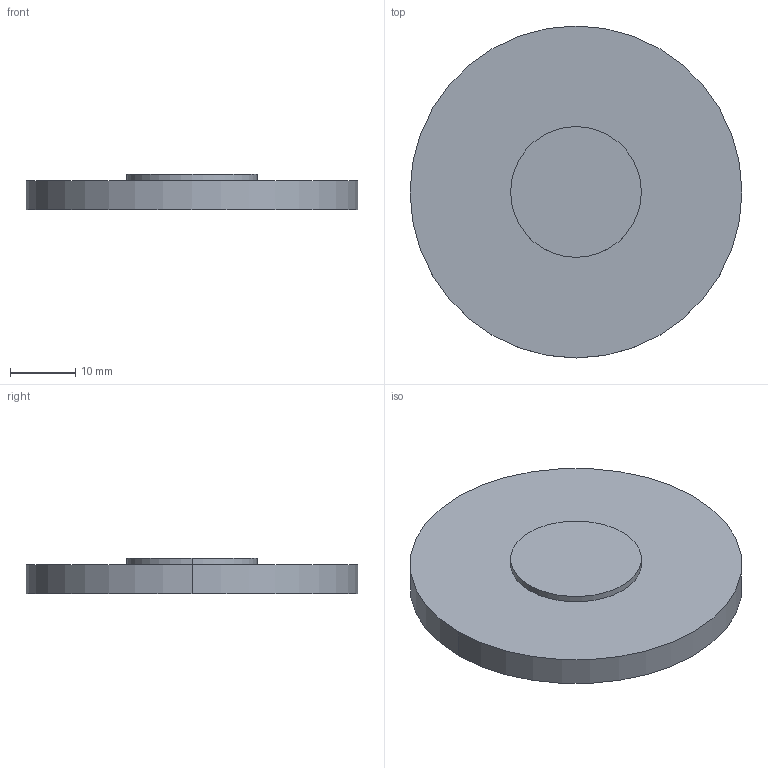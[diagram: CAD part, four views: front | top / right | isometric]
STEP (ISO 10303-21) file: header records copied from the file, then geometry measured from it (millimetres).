
FILE_DESCRIPTION(('STEP AP214'),'1');
FILE_NAME('LL-51-10M.STEP','2020-03-09T17:41:14',(' '),(' '),'Spatial InterOp 3D',' ',' ');
FILE_SCHEMA(('AUTOMOTIVE_DESIGN { 1 0 10303 214 1 1 1 1 }'));
Length unit declared in the file: millimetre
Products named in the file (1): 1
Bounding box: 50.8 x 50.8 x 5.5 mm (x, y, z)
Volume: 9387.2 mm3; surface area: 5455.5 mm2
Topology: 2 solids, 2 shells, 9 faces, 16 edges, 9 vertices
Faces by surface type: cylinder 4, plane 3, sphere 2
Entity records: 229 total; most frequent: DIRECTION 46, CARTESIAN_POINT 34, ORIENTED_EDGE 28, AXIS2_PLACEMENT_3D 21, EDGE_CURVE 14, CIRCLE 10, ADVANCED_FACE 9, FACE_OUTER_BOUND 9
